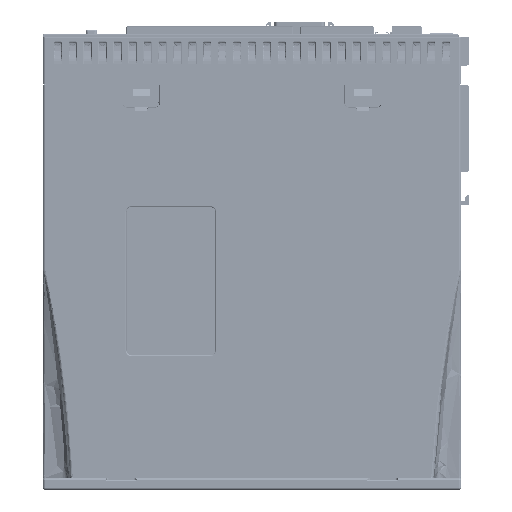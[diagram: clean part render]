
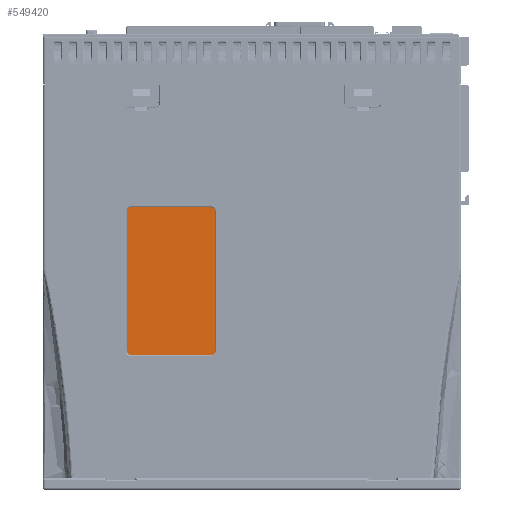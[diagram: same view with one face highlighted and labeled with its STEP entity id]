
A CAD part, left-side view. The second image highlights one B-rep face of the part: STEP entity #549420.
In plain terms, the highlighted planar face has unit normal (-1, 0, 0).
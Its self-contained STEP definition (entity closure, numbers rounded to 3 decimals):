
#531884=DIRECTION('',(0.,0.,-1.));
#531885=VECTOR('',#531884,55.6);
#531886=CARTESIAN_POINT('',(-39.7,141.39,111.7));
#531887=LINE('',#531886,#531885);
#531902=DIRECTION('',(0.,1.,0.));
#531903=VECTOR('',#531902,31.6);
#531904=CARTESIAN_POINT('',(-39.7,107.79,
113.7));
#531905=LINE('',#531904,#531903);
#531920=DIRECTION('',(0.,0.,1.));
#531921=VECTOR('',#531920,55.6);
#531922=CARTESIAN_POINT('',(-39.7,105.79,56.1));
#531923=LINE('',#531922,#531921);
#531938=DIRECTION('',(0.,-1.,0.));
#531939=VECTOR('',#531938,31.6);
#531940=CARTESIAN_POINT('',(-39.7,139.39,54.1));
#531941=LINE('',#531940,#531939);
#531942=CARTESIAN_POINT('',(-39.7,139.39,56.1));
#531943=DIRECTION('',(1.,0.,0.));
#531944=DIRECTION('',(0.,0.,-1.));
#531945=AXIS2_PLACEMENT_3D('',#531942,#531943,#531944);
#531947=CARTESIAN_POINT('',(-39.7,139.39,111.7));
#531948=DIRECTION('',(1.,0.,0.));
#531949=DIRECTION('',(0.,1.,0.));
#531950=AXIS2_PLACEMENT_3D('',#531947,#531948,#531949);
#531952=CARTESIAN_POINT('',(-39.7,107.79,111.7));
#531953=DIRECTION('',(1.,0.,0.));
#531954=DIRECTION('',(0.,0.,1.));
#531955=AXIS2_PLACEMENT_3D('',#531952,#531953,#531954);
#531957=CARTESIAN_POINT('',(-39.7,107.79,56.1));
#531958=DIRECTION('',(1.,0.,0.));
#531959=DIRECTION('',(0.,-1.,0.));
#531960=AXIS2_PLACEMENT_3D('',#531957,#531958,#531959);
#534759=CARTESIAN_POINT('',(-39.7,141.39,56.1));
#534760=VERTEX_POINT('',#534759);
#534761=CARTESIAN_POINT('',(-39.7,139.39,54.1));
#534762=VERTEX_POINT('',#534761);
#534763=CARTESIAN_POINT('',(-39.7,141.39,111.7));
#534764=VERTEX_POINT('',#534763);
#534765=CARTESIAN_POINT('',(-39.7,139.39,
113.7));
#534766=VERTEX_POINT('',#534765);
#534767=CARTESIAN_POINT('',(-39.7,107.79,
113.7));
#534768=VERTEX_POINT('',#534767);
#534769=CARTESIAN_POINT('',(-39.7,105.79,111.7));
#534770=VERTEX_POINT('',#534769);
#534771=CARTESIAN_POINT('',(-39.7,105.79,56.1));
#534772=VERTEX_POINT('',#534771);
#534773=CARTESIAN_POINT('',(-39.7,107.79,54.1));
#534774=VERTEX_POINT('',#534773);
#549405=CARTESIAN_POINT('',(-39.7,0.,0.));
#549406=DIRECTION('',(-1.,0.,0.));
#549407=DIRECTION('',(0.,0.,1.));
#549408=AXIS2_PLACEMENT_3D('',#549405,#549406,#549407);
#549409=PLANE('',#549408);
#549410=ORIENTED_EDGE('',*,*,#549301,.T.);
#549411=ORIENTED_EDGE('',*,*,#549316,.F.);
#549412=ORIENTED_EDGE('',*,*,#549330,.T.);
#549413=ORIENTED_EDGE('',*,*,#549344,.F.);
#549414=ORIENTED_EDGE('',*,*,#549358,.T.);
#549415=ORIENTED_EDGE('',*,*,#549372,.F.);
#549416=ORIENTED_EDGE('',*,*,#549386,.T.);
#549417=ORIENTED_EDGE('',*,*,#549399,.F.);
#549418=EDGE_LOOP('',(#549410,#549411,#549412,#549413,#549414,#549415,#549416,
#549417));
#549419=FACE_OUTER_BOUND('',#549418,.F.);
#531946=CIRCLE('',#531945,2.);
#531951=CIRCLE('',#531950,2.);
#531956=CIRCLE('',#531955,2.);
#531961=CIRCLE('',#531960,2.);
#549301=EDGE_CURVE('',#534762,#534760,#531946,.T.);
#549316=EDGE_CURVE('',#534764,#534760,#531887,.T.);
#549330=EDGE_CURVE('',#534764,#534766,#531951,.T.);
#549344=EDGE_CURVE('',#534768,#534766,#531905,.T.);
#549358=EDGE_CURVE('',#534768,#534770,#531956,.T.);
#549372=EDGE_CURVE('',#534772,#534770,#531923,.T.);
#549386=EDGE_CURVE('',#534772,#534774,#531961,.T.);
#549399=EDGE_CURVE('',#534762,#534774,#531941,.T.);
#549420=ADVANCED_FACE('',(#549419),#549409,.T.);
